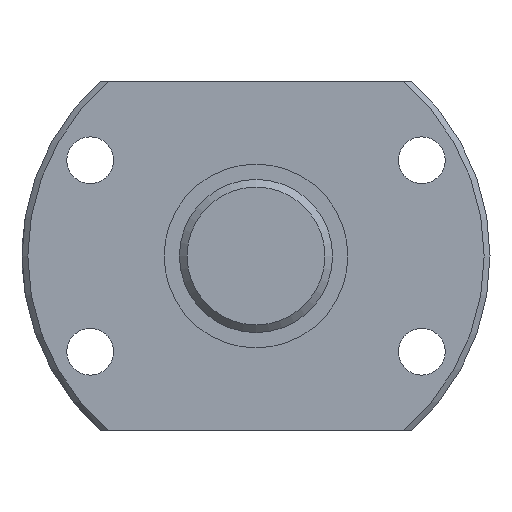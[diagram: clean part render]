
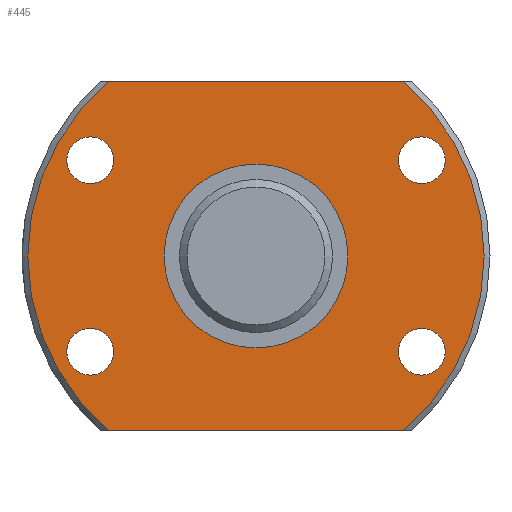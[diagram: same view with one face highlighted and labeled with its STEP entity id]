
A CAD part, left-side view. The second image highlights one B-rep face of the part: STEP entity #445.
In plain terms, the highlighted planar face has unit normal (-1, 0, 0).
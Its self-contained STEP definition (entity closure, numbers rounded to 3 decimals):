
#32=LINE('',#786,#40);
#33=LINE('',#790,#41);
#40=VECTOR('',#613,1000.);
#41=VECTOR('',#616,1000.);
#66=PLANE('',#515);
#102=ORIENTED_EDGE('',*,*,#196,.T.);
#103=ORIENTED_EDGE('',*,*,#197,.F.);
#104=ORIENTED_EDGE('',*,*,#198,.F.);
#105=ORIENTED_EDGE('',*,*,#199,.F.);
#106=ORIENTED_EDGE('',*,*,#186,.F.);
#107=ORIENTED_EDGE('',*,*,#200,.T.);
#108=ORIENTED_EDGE('',*,*,#201,.T.);
#109=ORIENTED_EDGE('',*,*,#202,.T.);
#110=ORIENTED_EDGE('',*,*,#203,.T.);
#186=EDGE_CURVE('',#234,#235,#273,.T.);
#196=EDGE_CURVE('',#244,#244,#278,.T.);
#197=EDGE_CURVE('',#245,#234,#32,.T.);
#198=EDGE_CURVE('',#246,#245,#279,.T.);
#199=EDGE_CURVE('',#235,#246,#33,.T.);
#200=EDGE_CURVE('',#247,#247,#280,.T.);
#201=EDGE_CURVE('',#248,#248,#281,.T.);
#202=EDGE_CURVE('',#249,#249,#282,.T.);
#203=EDGE_CURVE('',#250,#250,#283,.T.);
#234=VERTEX_POINT('',#738);
#235=VERTEX_POINT('',#740);
#244=VERTEX_POINT('',#785);
#245=VERTEX_POINT('',#787);
#246=VERTEX_POINT('',#789);
#247=VERTEX_POINT('',#792);
#248=VERTEX_POINT('',#794);
#249=VERTEX_POINT('',#796);
#250=VERTEX_POINT('',#798);
#273=CIRCLE('',#508,53.625);
#278=CIRCLE('',#516,21.6);
#279=CIRCLE('',#517,53.625);
#280=CIRCLE('',#518,5.5);
#281=CIRCLE('',#519,5.5);
#282=CIRCLE('',#520,5.5);
#283=CIRCLE('',#521,5.5);
#314=EDGE_LOOP('',(#102));
#315=EDGE_LOOP('',(#103,#104,#105,#106));
#316=EDGE_LOOP('',(#107));
#317=EDGE_LOOP('',(#108));
#318=EDGE_LOOP('',(#109));
#319=EDGE_LOOP('',(#110));
#376=FACE_BOUND('',#314,.T.);
#377=FACE_BOUND('',#315,.T.);
#378=FACE_BOUND('',#316,.T.);
#379=FACE_BOUND('',#317,.T.);
#380=FACE_BOUND('',#318,.T.);
#381=FACE_BOUND('',#319,.T.);
#445=ADVANCED_FACE('',(#376,#377,#378,#379,#380,#381),#66,.T.);
#508=AXIS2_PLACEMENT_3D('',#739,#593,#594);
#515=AXIS2_PLACEMENT_3D('',#783,#609,#610);
#516=AXIS2_PLACEMENT_3D('',#784,#611,#612);
#517=AXIS2_PLACEMENT_3D('',#788,#614,#615);
#518=AXIS2_PLACEMENT_3D('',#791,#617,#618);
#519=AXIS2_PLACEMENT_3D('',#793,#619,#620);
#520=AXIS2_PLACEMENT_3D('',#795,#621,#622);
#521=AXIS2_PLACEMENT_3D('',#797,#623,#624);
#593=DIRECTION('',(1.,0.,0.));
#594=DIRECTION('',(0.,0.,-1.));
#609=DIRECTION('',(-1.,0.,0.));
#610=DIRECTION('',(0.,0.,1.));
#611=DIRECTION('',(1.,0.,0.));
#612=DIRECTION('',(0.,0.,-1.));
#613=DIRECTION('',(0.,-1.,0.));
#614=DIRECTION('',(1.,0.,0.));
#615=DIRECTION('',(0.,0.,-1.));
#616=DIRECTION('',(0.,1.,0.));
#617=DIRECTION('',(1.,0.,0.));
#618=DIRECTION('',(0.,0.,-1.));
#619=DIRECTION('',(1.,0.,0.));
#620=DIRECTION('',(0.,0.,-1.));
#621=DIRECTION('',(1.,0.,0.));
#622=DIRECTION('',(0.,0.,-1.));
#623=DIRECTION('',(1.,0.,0.));
#624=DIRECTION('',(0.,0.,-1.));
#738=CARTESIAN_POINT('',(0.,-34.564,41.));
#739=CARTESIAN_POINT('',(0.,0.,0.));
#740=CARTESIAN_POINT('',(0.,-34.564,-41.));
#783=CARTESIAN_POINT('',(0.,53.625,0.));
#784=CARTESIAN_POINT('',(0.,0.,0.));
#785=CARTESIAN_POINT('',(0.,0.,-21.6));
#786=CARTESIAN_POINT('',(0.,55.1,41.));
#787=CARTESIAN_POINT('',(0.,34.564,41.));
#788=CARTESIAN_POINT('',(0.,0.,0.));
#789=CARTESIAN_POINT('',(0.,34.564,-41.));
#790=CARTESIAN_POINT('',(0.,-55.1,-41.));
#791=CARTESIAN_POINT('',(0.,-38.971,22.5));
#792=CARTESIAN_POINT('',(0.,-38.971,17.));
#793=CARTESIAN_POINT('',(0.,-38.971,-22.5));
#794=CARTESIAN_POINT('',(0.,-38.971,-28.));
#795=CARTESIAN_POINT('',(0.,38.971,-22.5));
#796=CARTESIAN_POINT('',(0.,38.971,-28.));
#797=CARTESIAN_POINT('',(0.,38.971,22.5));
#798=CARTESIAN_POINT('',(0.,38.971,17.));
